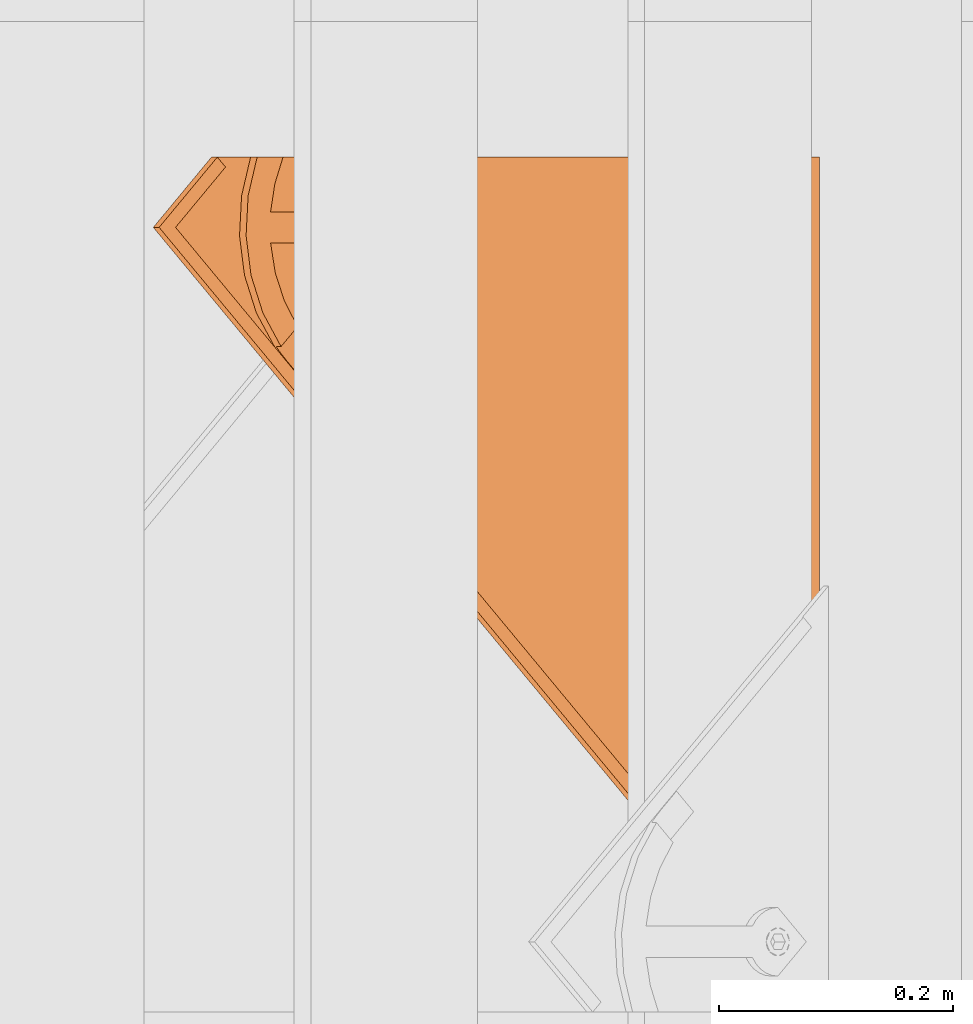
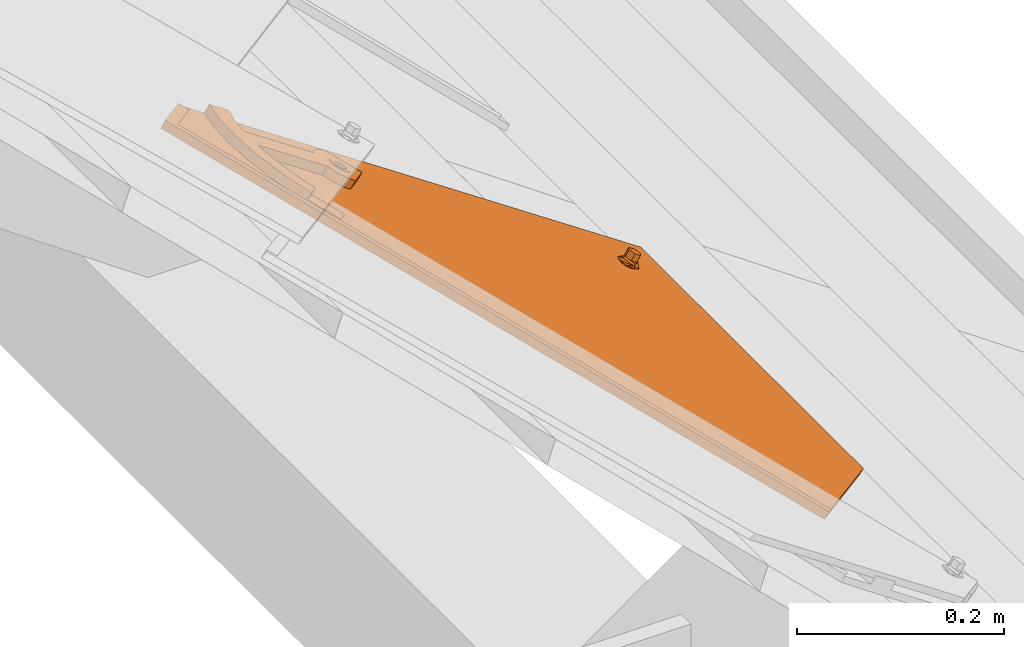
# One storey, part 127 of 151: 1 proxy.
"""IFC2X3 building model written with IfcOpenShell, lengths in millimetres."""

from ifc_helpers import new_model, entity, si_unit, converted_unit, derived_unit, direction, frame, origin, place, context, subcontext, project, spatial, faceted_brep, source, transform, mapped, material, material_list, type_object, type_shapes, element, save


model = new_model("IFC2X3")

# Units and contexts
model_context = context("Model", 3, precision=0.01, world=origin(), true_north=direction((6.12303176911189e-17, 1.0)))
body_context = subcontext(model_context, "Body", "Model", "MODEL_VIEW")
ifc_project = project(units=[si_unit("LENGTHUNIT", "METRE", prefix="MILLI"), si_unit("AREAUNIT", "SQUARE_METRE"), si_unit("VOLUMEUNIT", "CUBIC_METRE"), converted_unit("PLANEANGLEUNIT", "DEGREE", entity("IfcRatioMeasure", 0.0174532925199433), si_unit("PLANEANGLEUNIT", "RADIAN"), dimensions=[0, 0, 0, 0, 0, 0, 0]), si_unit("MASSUNIT", "GRAM", prefix="KILO"), derived_unit("MASSDENSITYUNIT", [(si_unit("MASSUNIT", "GRAM", prefix="KILO"), 1), (si_unit("LENGTHUNIT", "METRE"), -3)]), si_unit("TIMEUNIT", "SECOND"), si_unit("FREQUENCYUNIT", "HERTZ"), si_unit("THERMODYNAMICTEMPERATUREUNIT", "DEGREE_CELSIUS"), derived_unit("THERMALTRANSMITTANCEUNIT", [(si_unit("MASSUNIT", "GRAM", prefix="KILO"), 1), (si_unit("THERMODYNAMICTEMPERATUREUNIT", "KELVIN"), -1), (si_unit("TIMEUNIT", "SECOND"), -3)]), derived_unit("VOLUMETRICFLOWRATEUNIT", [(si_unit("LENGTHUNIT", "METRE"), 3), (si_unit("TIMEUNIT", "SECOND"), -1)]), si_unit("ELECTRICCURRENTUNIT", "AMPERE"), si_unit("ELECTRICVOLTAGEUNIT", "VOLT"), si_unit("POWERUNIT", "WATT"), si_unit("FORCEUNIT", "NEWTON", prefix="KILO"), si_unit("ILLUMINANCEUNIT", "LUX"), si_unit("LUMINOUSFLUXUNIT", "LUMEN"), si_unit("LUMINOUSINTENSITYUNIT", "CANDELA"), derived_unit("USERDEFINED", [(si_unit("MASSUNIT", "GRAM", prefix="KILO"), -1), (si_unit("LENGTHUNIT", "METRE"), -2), (si_unit("TIMEUNIT", "SECOND"), 3), (si_unit("LUMINOUSFLUXUNIT", "LUMEN"), 1)]), derived_unit("LINEARVELOCITYUNIT", [(si_unit("LENGTHUNIT", "METRE"), 1), (si_unit("TIMEUNIT", "SECOND"), -1)]), si_unit("PRESSUREUNIT", "PASCAL"), derived_unit("USERDEFINED", [(si_unit("LENGTHUNIT", "METRE"), -2), (si_unit("MASSUNIT", "GRAM", prefix="KILO"), 1), (si_unit("TIMEUNIT", "SECOND"), -2)])], contexts=[model_context])

# Site, building, storey
site_placement = place(None, origin())
site = spatial("IfcSite", under=ifc_project, at=site_placement, Name="Default", CompositionType="ELEMENT")
building_placement = place(site_placement, origin())
building = spatial("IfcBuilding", under=site, at=building_placement, CompositionType="ELEMENT")
storey_placement = place(building_placement, origin())
storey = spatial("IfcBuildingStorey", under=building, at=storey_placement, Name="Level 1", CompositionType="ELEMENT", Elevation=0.0)

# Proxy
ifc_material_1 = material(Name="Rubber - Sunstyle - Black")
ifc_material_2 = material(Name="Glass - Sunstyle - Tainted Black")
ifc_material_list_1 = material_list([ifc_material_1, ifc_material_2])
ifc_material_list_2 = material_list([ifc_material_1, ifc_material_2])
building_element_proxy_type = type_object("IfcBuildingElementProxyType", Name="Corner Bottom Big Right - Black", PredefinedType="NOTDEFINED", material=ifc_material_list_2)
shared_shape = source(origin(), body_context, "Body", "Brep", [
    faceted_brep([(0.270009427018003, -2.025866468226, -4.01619789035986), (-5.50419340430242, -5.35913660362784, -3.96037390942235), (-5.50419340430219, -4.99082751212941, 18.0314954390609), (0.270009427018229, -1.65755737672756, 17.9756714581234), (-5.50419340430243, -12.0256768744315, -3.84872594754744), (-5.5041934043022, -11.6573677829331, 18.1431434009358), (0.270009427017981, -15.3589470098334, -3.79290196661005), (0.270009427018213, -14.990637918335, 18.1989673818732), (6.04421225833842, -12.0256768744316, -3.84872594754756), (6.04421225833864, -11.6573677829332, 18.1431434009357), (6.04421225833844, -5.35913660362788, -3.96037390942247), (6.04421225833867, -4.99082751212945, 18.0314954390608), (-8.3336947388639, -16.9265954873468, 18.2313898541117), (0.27000942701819, -20.4898667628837, 18.2910657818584), (-11.8974656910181, -8.32409764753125, 18.0873194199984), (-8.33369473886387, 0.278400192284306, 17.9432489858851), (0.270009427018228, 3.84167146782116, 17.8835730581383), (8.87371359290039, 0.278400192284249, 17.9432489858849), (12.4374845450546, -8.32409764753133, 18.0873194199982), (8.87371359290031, -16.9265954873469, 18.2313898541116), (-11.1602134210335, -6.95050198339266, 20.4858706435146), (-9.50050407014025, -8.25322861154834, 22.3189355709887), (0.270009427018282, -0.940007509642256, 22.9603444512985), (0.27000942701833, 0.300490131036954, 22.3799978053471), (0.270009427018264, 2.4580409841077, 21.3706227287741), (-6.05323627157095, -4.59022324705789, 23.0214764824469), (-6.05323627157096, -11.8906547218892, 23.1437405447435), (0.270009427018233, -18.990246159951, 21.7298281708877), (0.270009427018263, -15.5408704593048, 23.2048725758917), (11.2551842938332, -12.0411541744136, 20.3827540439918), (10.3938597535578, -8.25726753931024, 22.077768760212), (6.59325512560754, -4.59022324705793, 23.0214764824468), (6.5932551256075, -11.8906547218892, 23.1437405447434), (-6.05323627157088, -11.7566262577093, 31.1466287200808), (0.270009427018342, -15.4068419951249, 31.207760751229), (0.270009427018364, -8.10641052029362, 31.0854966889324), (-6.05323627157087, -4.456194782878, 31.0243646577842), (6.59325512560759, -11.7566262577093, 31.1466287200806), (6.59325512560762, -4.45619478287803, 31.024364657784), (0.270009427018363, -0.805979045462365, 30.9632326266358), (0.270009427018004, -8.69240673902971, -3.90454992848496)], [[[0, 1, 2, 3]], [[1, 4, 5, 2]], [[4, 6, 7, 5]], [[6, 8, 9, 7]], [[8, 10, 11, 9]], [[10, 0, 3, 11]], [[12, 7, 13]], [[7, 12, 5]], [[14, 5, 12]], [[5, 14, 2]], [[15, 2, 14]], [[3, 2, 15]], [[15, 16, 3]], [[16, 17, 3]], [[11, 3, 17]], [[11, 17, 18]], [[9, 11, 18]], [[18, 19, 9]], [[7, 9, 19]], [[19, 13, 7]], [[15, 20, 16]], [[21, 22, 23, 24]], [[22, 21, 25]], [[20, 14, 12]], [[15, 14, 20]], [[25, 21, 26]], [[20, 24, 16]], [[12, 13, 27]], [[12, 27, 20]], [[21, 28, 26]], [[21, 27, 28]], [[20, 21, 24]], [[20, 27, 21]], [[19, 29, 13]], [[30, 23, 31]], [[30, 28, 27]], [[24, 23, 30]], [[29, 27, 13]], [[19, 18, 29]], [[29, 30, 27]], [[29, 17, 24]], [[24, 17, 16]], [[31, 32, 30]], [[23, 22, 31]], [[28, 30, 32]], [[29, 24, 30]], [[29, 18, 17]], [[33, 34, 35]], [[35, 36, 33]], [[34, 37, 35]], [[38, 35, 37]], [[35, 38, 39]], [[35, 39, 36]], [[40, 6, 4]], [[4, 1, 40]], [[1, 0, 40]], [[40, 8, 6]], [[0, 10, 40]], [[8, 40, 10]], [[22, 25, 36, 39]], [[25, 26, 33, 36]], [[26, 28, 34, 33]], [[28, 32, 37, 34]], [[32, 31, 38, 37]], [[31, 22, 39, 38]]]),
    faceted_brep([(-518.247351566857, 79.9143812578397, 14.9652572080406), (-518.247351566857, 79.9394990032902, 16.4650468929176), (-526.732038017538, 88.4241854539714, 16.3229495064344), (-526.732038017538, 88.399067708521, 14.8231598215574), (-0.00032251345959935, 614.98308737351, 6.00418773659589), (60.1037538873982, 554.895864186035, 7.01049921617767), (51.6190674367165, 546.411177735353, 7.15259660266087), (-0.000322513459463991, 598.016093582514, 6.28834266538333), (-0.000322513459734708, 615.00820511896, 7.50397742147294), (-0.000322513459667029, 598.041211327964, 7.78813235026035), (51.6190674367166, 546.436295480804, 8.65238628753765), (60.1037538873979, 554.920981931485, 8.51028890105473)], [[[0, 1, 2, 3]], [[0, 3, 4, 5, 6, 7]], [[3, 2, 8, 4]], [[2, 1, 9, 10, 11, 8]], [[1, 0, 7, 9]], [[6, 5, 11, 10]], [[4, 8, 11, 5]], [[9, 7, 6, 10]]]),
    faceted_brep([(0.0, 372.774440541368, 20.3195200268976), (0.0, 377.273809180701, 20.2441667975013), (-8.60370416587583, 376.337711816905, 20.2598440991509), (8.60370416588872, 376.337711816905, 20.2598440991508), (6.64022859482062, 381.107009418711, 20.1799702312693), (12.1674751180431, 384.940209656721, 20.1157736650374), (6.64022859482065, 388.773409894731, 20.0515770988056), (8.6037041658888, 393.542707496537, 19.9717032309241), (0.0, 392.606610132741, 19.9873805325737), (0.0, 397.105978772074, 19.9120273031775), (-8.60370416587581, 393.542707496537, 19.9717032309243), (-6.64022859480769, 388.773409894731, 20.0515770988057), (-12.1674751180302, 384.940209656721, 20.1157736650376), (-6.6402285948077, 381.107009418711, 20.1799702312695), (-6.6402282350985, 388.505487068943, 4.05382046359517), (0.0, 392.338687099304, 3.98962390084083), (-6.64022823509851, 380.839087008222, 4.18221358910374), (0.0, 377.005886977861, 4.24641015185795), (6.64022823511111, 380.839087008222, 4.1822135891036), (6.64022823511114, 388.505487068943, 4.05382046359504), (-8.603704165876, 376.069789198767, 4.26208746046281), (0.0, 372.50651792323, 4.32176338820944), (-12.1674751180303, 384.672287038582, 4.11801702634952), (-8.60370416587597, 393.274784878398, 3.97394659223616), (0.0, 396.838056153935, 3.91427066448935), (8.60370416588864, 393.274784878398, 3.97394659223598), (12.1674751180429, 384.672287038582, 4.11801702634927), (8.60370416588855, 376.069789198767, 4.26208746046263)], [[[0, 1, 2]], [[1, 0, 3]], [[3, 4, 1]], [[4, 3, 5]], [[6, 4, 5]], [[5, 7, 6]], [[7, 8, 6]], [[8, 7, 9]], [[8, 9, 10]], [[10, 11, 8]], [[12, 11, 10]], [[2, 13, 12]], [[12, 13, 11]], [[13, 2, 1]], [[8, 11, 14, 15]], [[11, 13, 16, 14]], [[13, 1, 17, 16]], [[1, 4, 18, 17]], [[4, 6, 19, 18]], [[6, 8, 15, 19]], [[20, 17, 21]], [[17, 20, 16]], [[22, 16, 20]], [[14, 16, 22]], [[23, 14, 22]], [[15, 14, 23]], [[23, 24, 15]], [[24, 25, 15]], [[19, 15, 25]], [[19, 25, 26]], [[26, 18, 19]], [[26, 27, 18]], [[17, 18, 27]], [[27, 21, 17]], [[24, 23, 10, 9]], [[10, 23, 22, 12]], [[20, 21, 0, 2]], [[20, 2, 12, 22]], [[21, 27, 3, 0]], [[3, 27, 26, 5]], [[25, 24, 9, 7]], [[25, 7, 5, 26]]]),
    faceted_brep([(-10.3923048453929, 390.78484910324, 9.75895037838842), (-8.48528137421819, 393.269782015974, 9.7173339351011), (-0.00032251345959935, 614.983087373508, 6.0041877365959), (-11.5911099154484, 387.891083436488, 9.8074137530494), (-6.0, 395.176538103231, 9.68540051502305), (-3.10582854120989, 396.37517508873, 9.6653263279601), (60.1037538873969, 554.895864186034, 7.01049921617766), (0.0, 396.784007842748, 9.65847939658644), (3.1058285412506, 396.37517508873, 9.6653263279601), (6.0, 395.176538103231, 9.68540051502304), (8.48528137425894, 393.269782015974, 9.7173339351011), (10.3923048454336, 390.784849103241, 9.75895037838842), (11.5911099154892, 387.891083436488, 9.8074137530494), (12.0, 384.785690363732, 9.8594213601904), (11.5911099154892, 381.680297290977, 9.9114289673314), (60.103753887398, -67.933460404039, 17.4413406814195), (10.3923048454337, 378.786531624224, 9.95989234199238), (6.58173564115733, -3.94243384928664, 16.369650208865), (8.48528137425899, 376.301598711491, 10.0015087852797), (5.31038666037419, -2.28581190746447, 16.3419059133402), (6.0, 374.394842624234, 10.0334422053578), (3.65353241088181, -1.01464118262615, 16.3206169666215), (3.10582854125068, 373.196205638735, 10.0535163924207), (1.72408477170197, -0.215549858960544, 16.3072341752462), (0.0, 372.787372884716, 10.0603633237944), (-0.346467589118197, 0.0570053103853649, 16.3026695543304), (-2.41701994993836, -0.215549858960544, 16.3072341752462), (-3.10582854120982, 373.196205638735, 10.0535163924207), (-4.34646758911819, -1.01464118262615, 16.3206169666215), (-6.0, 374.394842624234, 10.0334422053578), (-6.00332183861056, -2.28581190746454, 16.3419059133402), (-8.48528137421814, 376.301598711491, 10.0015087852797), (-370.355661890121, -67.9334604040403, 17.4413406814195), (-10.3923048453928, 378.786531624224, 9.95989234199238), (-526.732038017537, 88.3990677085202, 14.8231598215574), (-11.5911099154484, 381.680297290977, 9.9114289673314), (-12.0, 384.785690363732, 9.8594213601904), (-7.27467081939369, -3.94243384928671, 16.369650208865), (-8.07387419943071, -5.87161096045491, 16.4019591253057), (-8.34646758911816, -7.94187300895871, 16.4366308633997), (-8.0738741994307, -10.0121350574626, 16.4713026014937), (-7.27467081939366, -11.9413121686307, 16.5036115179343), (-6.00332183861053, -13.5979341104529, 16.5313558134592), (-4.34646758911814, -14.8691048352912, 16.5526447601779), (-2.41701994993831, -15.6681961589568, 16.5660275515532), (7.38093902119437, -5.87161096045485, 16.4019591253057), (7.65353241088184, -7.94187300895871, 16.4366308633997), (7.38093902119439, -10.0121350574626, 16.4713026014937), (6.58173564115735, -11.9413121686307, 16.5036115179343), (5.31038666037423, -13.5979341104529, 16.5313558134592), (3.65353241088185, -14.8691048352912, 16.5526447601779), (1.72408477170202, -15.6681961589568, 16.5660275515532), (-0.346467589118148, -15.9407513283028, 16.570592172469), (-370.355661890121, -68.0590491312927, 9.94239225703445), (-8.0738741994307, -10.1377237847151, 8.97235417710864), (-7.27467081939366, -12.0669008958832, 9.00466309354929), (-8.34646758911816, -8.06746173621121, 8.93768243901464), (-6.00332183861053, -13.7235228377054, 9.03240738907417), (-4.34646758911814, -14.9946935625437, 9.05369633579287), (60.103753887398, -68.0590491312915, 9.94239225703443), (-8.07387419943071, -5.99719968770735, 8.90301070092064), (-7.27467081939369, -4.06802257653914, 8.87070178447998), (-6.00332183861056, -2.41140063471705, 8.8429574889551), (-8.48528137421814, 376.176009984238, 2.50256036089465), (-10.3923048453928, 378.660942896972, 2.46094391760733), (-526.732038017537, 88.2734789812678, 7.32421139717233), (-11.5911099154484, 381.554708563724, 2.41248054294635), (-12.0, 384.66010163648, 2.36047293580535), (-11.5911099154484, 387.765494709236, 2.30846532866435), (-0.00032251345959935, 614.857498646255, -1.49476068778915), (-10.3923048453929, 390.659260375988, 2.26000195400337), (-8.48528137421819, 393.144193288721, 2.21838551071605), (-6.0, 395.050949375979, 2.18645209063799), (-3.10582854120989, 396.249586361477, 2.16637790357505), (60.1037538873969, 554.770275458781, -0.488449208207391), (0.0, 396.658419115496, 2.15953097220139), (3.1058285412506, 396.249586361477, 2.16637790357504), (6.0, 395.050949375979, 2.18645209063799), (8.48528137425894, 393.144193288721, 2.21838551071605), (10.3923048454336, 390.659260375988, 2.26000195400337), (11.5911099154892, 387.765494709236, 2.30846532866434), (12.0, 384.66010163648, 2.36047293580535), (11.5911099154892, 381.554708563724, 2.41248054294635), (-2.41701994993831, -15.7937848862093, 9.06707912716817), (-0.346467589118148, -16.0663400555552, 9.07164374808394), (1.72408477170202, -15.7937848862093, 9.06707912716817), (3.65353241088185, -14.9946935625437, 9.05369633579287), (5.31038666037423, -13.7235228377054, 9.03240738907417), (6.58173564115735, -12.0669008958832, 9.00466309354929), (7.38093902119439, -10.1377237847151, 8.97235417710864), (7.65353241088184, -8.06746173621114, 8.93768243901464), (7.38093902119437, -5.99719968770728, 8.90301070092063), (6.58173564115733, -4.06802257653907, 8.87070178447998), (10.3923048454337, 378.660942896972, 2.46094391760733), (-6.0, 374.269253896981, 2.5344937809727), (-4.34646758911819, -1.14022990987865, 8.8216685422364), (-3.10582854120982, 373.070616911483, 2.55456796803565), (-2.41701994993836, -0.341138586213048, 8.8082857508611), (0.0, 372.661784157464, 2.56141489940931), (-0.346467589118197, -0.0685834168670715, 8.80372112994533), (1.72408477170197, -0.341138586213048, 8.8082857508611), (3.10582854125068, 373.070616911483, 2.55456796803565), (3.65353241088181, -1.14022990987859, 8.8216685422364), (6.0, 374.269253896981, 2.5344937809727), (5.31038666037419, -2.41140063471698, 8.8429574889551), (8.48528137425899, 376.176009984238, 2.50256036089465)], [[[0, 1, 2]], [[3, 0, 2]], [[4, 2, 1]], [[2, 4, 5]], [[6, 2, 5]], [[7, 6, 5]], [[7, 8, 6]], [[8, 9, 6]], [[10, 6, 9]], [[6, 10, 11]], [[6, 11, 12]], [[12, 13, 6]], [[13, 14, 6]], [[6, 14, 15]], [[14, 16, 15]], [[17, 15, 16]], [[18, 17, 16]], [[17, 18, 19]], [[18, 20, 19]], [[21, 19, 20]], [[20, 22, 21]], [[23, 21, 22]], [[24, 23, 22]], [[23, 24, 25]], [[26, 25, 24]], [[24, 27, 26]], [[26, 27, 28]], [[29, 28, 27]], [[28, 29, 30]], [[29, 31, 30]], [[32, 30, 31]], [[33, 32, 31]], [[33, 34, 32]], [[33, 35, 34]], [[35, 36, 34]], [[36, 3, 34]], [[3, 2, 34]], [[30, 32, 37]], [[37, 32, 38]], [[32, 39, 38]], [[39, 32, 40]], [[40, 32, 41]], [[42, 41, 32]], [[42, 32, 43]], [[43, 32, 15]], [[15, 44, 43]], [[17, 45, 15]], [[45, 46, 15]], [[47, 15, 46]], [[47, 48, 15]], [[49, 15, 48]], [[15, 49, 50]], [[50, 51, 15]], [[51, 52, 15]], [[52, 44, 15]], [[53, 54, 55]], [[54, 53, 56]], [[53, 55, 57]], [[57, 58, 53]], [[53, 58, 59]], [[60, 56, 53]], [[61, 60, 53]], [[61, 53, 62]], [[63, 62, 53]], [[64, 63, 53]], [[65, 64, 53]], [[65, 66, 64]], [[66, 65, 67]], [[67, 65, 68]], [[65, 69, 68]], [[70, 68, 69]], [[71, 70, 69]], [[72, 71, 69]], [[69, 73, 72]], [[74, 73, 69]], [[75, 73, 74]], [[76, 75, 74]], [[77, 76, 74]], [[74, 78, 77]], [[78, 74, 79]], [[80, 79, 74]], [[80, 74, 81]], [[82, 81, 74]], [[82, 74, 59]], [[59, 58, 83]], [[84, 59, 83]], [[84, 85, 59]], [[85, 86, 59]], [[87, 59, 86]], [[59, 87, 88]], [[59, 88, 89]], [[89, 90, 59]], [[90, 91, 59]], [[91, 92, 59]], [[92, 93, 59]], [[93, 82, 59]], [[94, 62, 63]], [[94, 95, 62]], [[96, 95, 94]], [[97, 95, 96]], [[96, 98, 97]], [[99, 97, 98]], [[99, 98, 100]], [[101, 100, 98]], [[102, 100, 101]], [[103, 102, 101]], [[104, 102, 103]], [[103, 105, 104]], [[105, 92, 104]], [[105, 93, 92]], [[36, 67, 68, 3]], [[3, 68, 70, 0]], [[4, 1, 71, 72]], [[70, 71, 1, 0]], [[5, 4, 72, 73]], [[75, 7, 5, 73]], [[8, 76, 77, 9]], [[9, 77, 78, 10]], [[12, 11, 79, 80]], [[78, 79, 11, 10]], [[13, 12, 80, 81]], [[8, 7, 75, 76]], [[13, 81, 82, 14]], [[14, 82, 93, 16]], [[20, 18, 105, 103]], [[93, 105, 18, 16]], [[22, 20, 103, 101]], [[98, 24, 22, 101]], [[27, 96, 94, 29]], [[29, 94, 63, 31]], [[35, 33, 64, 66]], [[63, 64, 33, 31]], [[36, 35, 66, 67]], [[27, 24, 98, 96]], [[34, 2, 69, 65]], [[32, 34, 65, 53]], [[15, 32, 53, 59]], [[6, 15, 59, 74]], [[2, 6, 74, 69]], [[39, 56, 60, 38]], [[38, 60, 61, 37]], [[28, 30, 62, 95]], [[62, 30, 37, 61]], [[26, 28, 95, 97]], [[26, 97, 99, 25]], [[25, 99, 100, 23]], [[23, 100, 102, 21]], [[17, 19, 104, 92]], [[104, 19, 21, 102]], [[45, 17, 92, 91]], [[45, 91, 90, 46]], [[46, 90, 89, 47]], [[47, 89, 88, 48]], [[50, 49, 87, 86]], [[87, 49, 48, 88]], [[51, 50, 86, 85]], [[51, 85, 84, 52]], [[52, 84, 83, 44]], [[44, 83, 58, 43]], [[41, 42, 57, 55]], [[57, 42, 43, 58]], [[40, 41, 55, 54]], [[40, 54, 56, 39]]]),
    faceted_brep([(-114.2509690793, 483.839345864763, 10.7008696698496), (-128.946713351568, 469.147722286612, 10.9469178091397), (-111.269043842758, 451.472531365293, 11.2429332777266), (-84.944396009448, 477.793488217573, 10.8021227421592), (-102.027571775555, 494.874268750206, 10.5160621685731), (-108.279973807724, 489.512620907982, 10.6058564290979), (0.0, 355.735286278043, 10.3459433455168), (0.0, 373.122276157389, 10.0547545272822), (3.10582854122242, 373.531108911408, 10.0479075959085), (-3.10582854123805, 373.531108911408, 10.0479075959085), (6.0, 374.729745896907, 10.0278334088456), (8.48528137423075, 376.636501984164, 9.99589998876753), (29.3894280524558, 385.120593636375, 9.85381256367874), (-6.0, 374.729745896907, 10.0278334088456), (-8.4852813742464, 376.636501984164, 9.99589998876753), (-29.3894280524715, 385.120593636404, 9.85381256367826), (-10.3923048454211, 379.121434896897, 9.95428354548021), (-11.5911099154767, 382.01520056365, 9.90582017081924), (-12.0, 385.120593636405, 9.85381256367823), (-28.6795527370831, 391.540108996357, 9.74630165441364), (-11.5911099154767, 388.225986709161, 9.80180495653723), (-26.5842195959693, 397.649509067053, 9.64398440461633), (-10.3923048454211, 391.119752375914, 9.75334158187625), (-23.204650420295, 403.153659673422, 9.55180357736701), (-8.48528137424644, 393.604685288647, 9.71172513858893), (-18.704106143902, 407.786665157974, 9.47421226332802), (-6.0, 395.511441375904, 9.67979171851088), (-13.3000000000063, 411.324713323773, 9.41495875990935), (-3.10582854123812, 396.710078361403, 9.65971753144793), (0.0, 397.118911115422, 9.65287060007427), (13.2999999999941, 411.324713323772, 9.41495875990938), (-13.3000000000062, 505.643535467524, 7.83535317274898), (13.2999999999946, 505.643535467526, 7.83535317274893), (-7.21723712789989, 530.953901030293, 7.41146752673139), (-41.1626974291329, 525.784666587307, 7.49803934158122), (-38.7697427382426, 500.828655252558, 7.91599043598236), (-73.2491712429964, 513.560140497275, 7.70276973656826), (-62.9243331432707, 491.42502143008, 8.07347790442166), (-84.9431983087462, 477.752822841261, 8.30245321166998), (-102.027571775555, 494.832405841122, 8.01641269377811), (-108.279973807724, 489.470757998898, 8.10620695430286), (-114.2509690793, 483.79748295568, 8.20122019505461), (-111.269043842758, 451.430668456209, 8.74328380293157), (-128.946713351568, 469.105859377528, 8.44726833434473), (27.0541674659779, 528.834391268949, 7.44696404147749), (37.2599857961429, 501.252149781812, 7.90889795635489), (60.1037538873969, 519.521858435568, 7.60292579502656), (60.1037538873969, 492.795625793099, 8.05052369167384), (3.10582854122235, 396.710078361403, 9.65971753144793), (6.0, 395.511441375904, 9.67979171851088), (18.7041061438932, 407.786665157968, 9.47421226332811), (8.48528137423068, 393.604685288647, 9.71172513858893), (23.2046504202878, 403.153659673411, 9.55180357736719), (10.3923048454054, 391.119752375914, 9.75334158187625), (26.5842195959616, 397.649509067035, 9.64398440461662), (11.591109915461, 388.225986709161, 9.80180495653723), (28.6795527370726, 391.540108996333, 9.74630165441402), (12.0, 385.120593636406, 9.85381256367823), (11.591109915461, 382.01520056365, 9.90582017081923), (10.3923048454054, 379.121434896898, 9.95428354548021), (-38.7697427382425, 500.996106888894, 17.9145883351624), (-41.1626974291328, 525.952118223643, 17.4966372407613), (-73.2491712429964, 513.727592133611, 17.7013676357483), (-62.9243331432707, 491.592473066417, 18.0720758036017), (-13.3000000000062, 505.810987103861, 17.833951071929), (-7.21723712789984, 531.121352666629, 17.4100654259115), (13.2999999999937, 505.810987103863, 17.833951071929), (-13.3000000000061, 411.49216496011, 19.4135566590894), (13.2999999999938, 411.492164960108, 19.4135566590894), (0.0, 397.286362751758, 19.6514684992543), (-3.10582854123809, 396.877529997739, 19.658315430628), (-6.0, 395.678893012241, 19.6783896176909), (-18.7041061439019, 407.954116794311, 19.4728101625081), (-8.48528137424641, 393.772136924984, 19.710323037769), (-23.2046504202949, 403.321111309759, 19.5504014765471), (-10.3923048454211, 391.28720401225, 19.7519394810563), (-26.5842195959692, 397.816960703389, 19.6425823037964), (-11.5911099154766, 388.393438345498, 19.8004028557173), (-28.6795527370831, 391.707560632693, 19.7448995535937), (-12.0, 385.288045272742, 19.8524104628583), (-29.3894280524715, 385.28804527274, 19.8524104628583), (-11.5911099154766, 382.182652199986, 19.9044180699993), (-10.3923048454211, 379.288886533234, 19.9528814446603), (-8.48528137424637, 376.803953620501, 19.9944978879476), (0.0, 355.902737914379, 20.3445412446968), (-6.0, 374.897197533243, 20.0264313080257), (-3.10582854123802, 373.698560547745, 20.0465054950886), (0.0, 373.289727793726, 20.0533524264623), (3.10582854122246, 373.698560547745, 20.0465054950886), (6.0, 374.897197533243, 20.0264313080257), (8.48528137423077, 376.803953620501, 19.9944978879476), (29.3894280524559, 385.288045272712, 19.8524104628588), (10.3923048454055, 379.288886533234, 19.9528814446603), (11.591109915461, 382.182652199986, 19.9044180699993), (12.0, 385.288045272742, 19.8524104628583), (28.6795527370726, 391.70756063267, 19.7448995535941), (11.591109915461, 388.393438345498, 19.8004028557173), (26.5842195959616, 397.816960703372, 19.6425823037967), (10.3923048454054, 391.28720401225, 19.7519394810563), (23.2046504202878, 403.321111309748, 19.5504014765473), (8.48528137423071, 393.772136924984, 19.710323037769), (18.7041061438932, 407.954116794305, 19.4728101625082), (6.0, 395.678893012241, 19.6783896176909), (3.10582854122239, 396.877529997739, 19.658315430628), (27.0541674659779, 529.001842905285, 17.4455619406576), (37.259985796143, 501.419601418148, 17.907495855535), (60.1037538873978, 519.689310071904, 17.6015236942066), (60.1037538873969, 492.963077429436, 18.0491215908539), (-84.9443960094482, 477.919076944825, 18.3010711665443), (-102.027571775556, 494.999857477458, 18.0150105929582)], [[[0, 1, 2, 3, 4, 5]], [[6, 7, 8]], [[7, 6, 9]], [[6, 8, 10]], [[10, 11, 6]], [[6, 11, 12]], [[13, 9, 6]], [[14, 13, 6]], [[14, 6, 15]], [[15, 16, 14]], [[16, 15, 17]], [[17, 15, 18]], [[19, 18, 15]], [[20, 18, 19]], [[19, 21, 20]], [[20, 21, 22]], [[23, 22, 21]], [[23, 24, 22]], [[23, 25, 24]], [[25, 26, 24]], [[26, 25, 27]], [[28, 26, 27]], [[27, 29, 28]], [[30, 29, 27]], [[30, 27, 31]], [[30, 31, 32]], [[31, 33, 32]], [[33, 31, 34]], [[35, 34, 31]], [[34, 35, 36]], [[37, 36, 35]], [[37, 38, 36]], [[36, 38, 39]], [[40, 39, 38]], [[40, 38, 41]], [[38, 42, 41]], [[42, 43, 41]], [[32, 33, 44]], [[44, 45, 32]], [[45, 44, 46]], [[46, 47, 45]], [[48, 29, 30]], [[30, 49, 48]], [[49, 30, 50]], [[50, 51, 49]], [[50, 52, 51]], [[51, 52, 53]], [[54, 53, 52]], [[54, 55, 53]], [[56, 55, 54]], [[57, 55, 56]], [[12, 57, 56]], [[58, 57, 12]], [[12, 11, 59]], [[58, 12, 59]], [[1, 0, 41, 43]], [[2, 1, 43, 42]], [[4, 39, 40, 5]], [[40, 41, 0, 5]], [[3, 2, 42, 38]], [[60, 61, 62]], [[63, 60, 62]], [[64, 61, 60]], [[61, 64, 65]], [[66, 65, 64]], [[66, 64, 67]], [[66, 67, 68]], [[68, 67, 69]], [[67, 70, 69]], [[71, 70, 67]], [[71, 67, 72]], [[72, 73, 71]], [[73, 72, 74]], [[73, 74, 75]], [[74, 76, 75]], [[75, 76, 77]], [[78, 77, 76]], [[78, 79, 77]], [[78, 80, 79]], [[79, 80, 81]], [[82, 81, 80]], [[83, 82, 80]], [[83, 80, 84]], [[85, 83, 84]], [[86, 85, 84]], [[87, 86, 84]], [[87, 84, 88]], [[89, 88, 84]], [[89, 84, 90]], [[91, 90, 84]], [[92, 90, 91]], [[91, 93, 92]], [[93, 91, 94]], [[95, 94, 91]], [[95, 96, 94]], [[95, 97, 96]], [[96, 97, 98]], [[99, 98, 97]], [[98, 99, 100]], [[100, 99, 101]], [[101, 68, 102]], [[100, 101, 102]], [[102, 68, 103]], [[103, 68, 69]], [[66, 104, 65]], [[105, 104, 66]], [[105, 106, 104]], [[106, 105, 107]], [[108, 63, 62]], [[62, 109, 108]], [[66, 68, 30, 32]], [[95, 91, 12, 56]], [[97, 95, 56, 54]], [[54, 52, 99, 97]], [[101, 99, 52, 50]], [[68, 101, 50, 30]], [[91, 84, 6, 12]], [[84, 80, 15, 6]], [[72, 67, 27, 25]], [[74, 72, 25, 23]], [[23, 21, 76, 74]], [[78, 76, 21, 19]], [[80, 78, 19, 15]], [[67, 64, 31, 27]], [[104, 106, 46, 44]], [[65, 104, 44, 33]], [[33, 34, 61, 65]], [[62, 61, 34, 36]], [[4, 109, 62, 36, 39]], [[79, 18, 20, 77]], [[77, 20, 22, 75]], [[71, 73, 24, 26]], [[22, 24, 73, 75]], [[70, 71, 26, 28]], [[29, 69, 70, 28]], [[103, 48, 49, 102]], [[102, 49, 51, 100]], [[96, 98, 53, 55]], [[51, 53, 98, 100]], [[94, 96, 55, 57]], [[103, 69, 29, 48]], [[94, 57, 58, 93]], [[93, 58, 59, 92]], [[89, 90, 11, 10]], [[59, 11, 90, 92]], [[88, 89, 10, 8]], [[7, 87, 88, 8]], [[86, 9, 13, 85]], [[85, 13, 14, 83]], [[81, 82, 16, 17]], [[14, 16, 82, 83]], [[79, 81, 17, 18]], [[86, 87, 7, 9]], [[108, 109, 4, 3]], [[32, 45, 105, 66]], [[47, 107, 105, 45]], [[3, 37, 63, 108]], [[3, 38, 37]], [[35, 31, 64, 60]], [[37, 35, 60, 63]], [[106, 107, 47, 46]]]),
])
type_shapes(building_element_proxy_type, [shared_shape])
proxy_placement = place(storey_placement, frame((4504.59697349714, -5920.68342775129, 561.615735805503), z_axis=(0.573576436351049, 0.0, 0.81915204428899), x_axis=(0.0, 1.0, 0.0)))
element("IfcBuildingElementProxy", 1, at=proxy_placement, inside=storey, type_object=building_element_proxy_type, material=ifc_material_list_1, Name="Roofing_Panels_SunStyle_Tile_Corner-Bottom-Big-Right:Corner Bottom Big Right - Black", ObjectType="Roofing_Panels_SunStyle_Tile_Corner-Bottom-Big-Right:Corner Bottom Big Right - Black", context=body_context, shape_type="MappedRepresentation", body=[
    mapped(shared_shape, transform((0.0, 0.0, 0.0), scale=1.0)),
])

save(model, "model.ifc")
